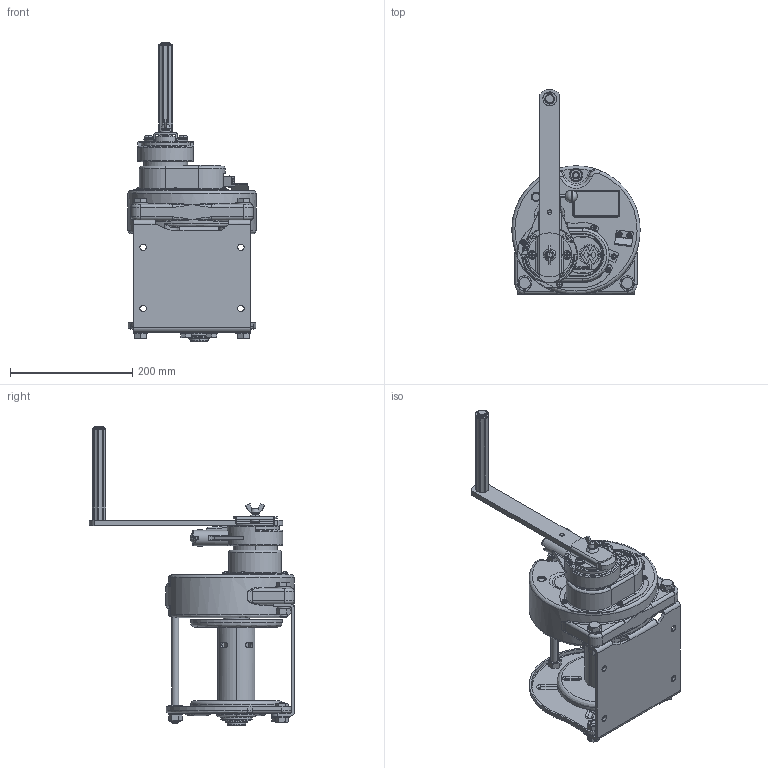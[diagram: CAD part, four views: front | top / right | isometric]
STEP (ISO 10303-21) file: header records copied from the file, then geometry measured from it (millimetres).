
FILE_DESCRIPTION( (''), '2;1');
FILE_NAME ('ERSB-3.stp','2024-01-10T09:48:22',(''),(''),'spGate 19.8.2 (****-****-****-****)','','');
FILE_SCHEMA (('AUTOMOTIVE_DESIGN'));
Length unit declared in the file: millimetre
Products named in the file (3): Assembly; ERSB-3-prt0; ERSB-3-prt1
Assembly tree (2 placements, depth 2):
  Assembly
    ERSB-3-prt0
    ERSB-3-prt1
Bounding box: 209.96 x 335.43 x 489.2 mm (x, y, z)
Volume: 3925045.3 mm3; surface area: 607233.7 mm2
Topology: 2 solids, 2 shells, 2848 faces, 7356 edges, 4630 vertices
Faces by surface type: plane 1412, cylinder 847, bspline 474, sphere 115
Entity records: 155555 total; most frequent: CARTESIAN_POINT 29289, ORIENTED_EDGE 14568, DIRECTION 14060, COLOUR_RGB 10134, PRESENTATION_STYLE_ASSIGNMENT 10134, STYLED_ITEM 10134, EDGE_CURVE 7284, DRAUGHTING_PRE_DEFINED_CURVE_FONT 7284
